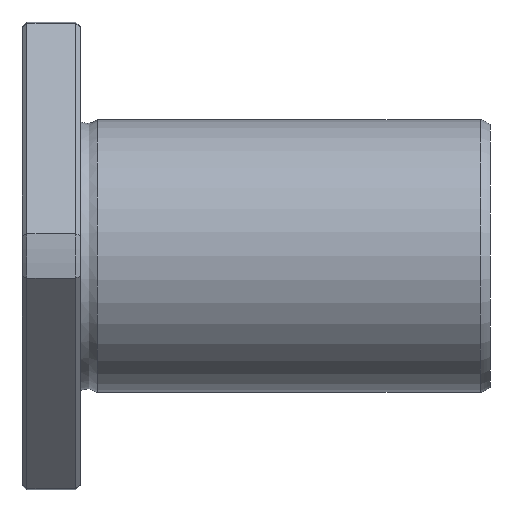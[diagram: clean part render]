
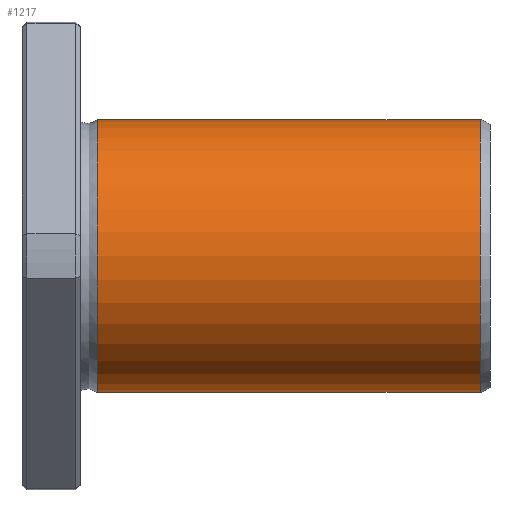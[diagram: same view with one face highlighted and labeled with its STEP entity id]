
A CAD part, front view. The second image highlights one B-rep face of the part: STEP entity #1217.
In plain terms, the highlighted cylindrical face has radius 14 mm (diameter 28 mm), a full revolution.
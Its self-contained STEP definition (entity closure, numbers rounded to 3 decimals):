
#1183=CARTESIAN_POINT('',(46.999,0.0,14.));
#1184=VERTEX_POINT('',#1183);
#1185=CARTESIAN_POINT('',(46.999,0.0,0.0));
#1186=DIRECTION('',(-1.0,0.0,0.0));
#1187=DIRECTION('',(0.0,0.0,1.0));
#1188=AXIS2_PLACEMENT_3D('',#1185,#1186,#1187);
#1189=CIRCLE('',#1188,14.);
#1190=EDGE_CURVE('',#1184,#1184,#1189,.T.);
#1198=CARTESIAN_POINT('',(27.359,0.0,0.0));
#1199=DIRECTION('',(-1.0,0.0,0.0));
#1200=DIRECTION('',(0.0,0.0,1.0));
#1201=AXIS2_PLACEMENT_3D('',#1198,#1199,#1200);
#1202=CYLINDRICAL_SURFACE('',#1201,14.);
#1203=CARTESIAN_POINT('',(7.72,0.0,14.));
#1204=VERTEX_POINT('',#1203);
#1205=CARTESIAN_POINT('',(7.72,0.0,0.0));
#1206=DIRECTION('',(-1.0,0.0,0.0));
#1207=DIRECTION('',(0.0,0.0,1.0));
#1208=AXIS2_PLACEMENT_3D('',#1205,#1206,#1207);
#1209=CIRCLE('',#1208,14.);
#1210=EDGE_CURVE('',#1204,#1204,#1209,.T.);
#1211=ORIENTED_EDGE('',*,*,#1210,.F.);
#1212=EDGE_LOOP('',(#1211));
#1213=FACE_OUTER_BOUND('',#1212,.T.);
#1214=ORIENTED_EDGE('',*,*,#1190,.T.);
#1215=EDGE_LOOP('',(#1214));
#1216=FACE_BOUND('',#1215,.T.);
#1217=ADVANCED_FACE('',(#1213,#1216),#1202,.T.);
